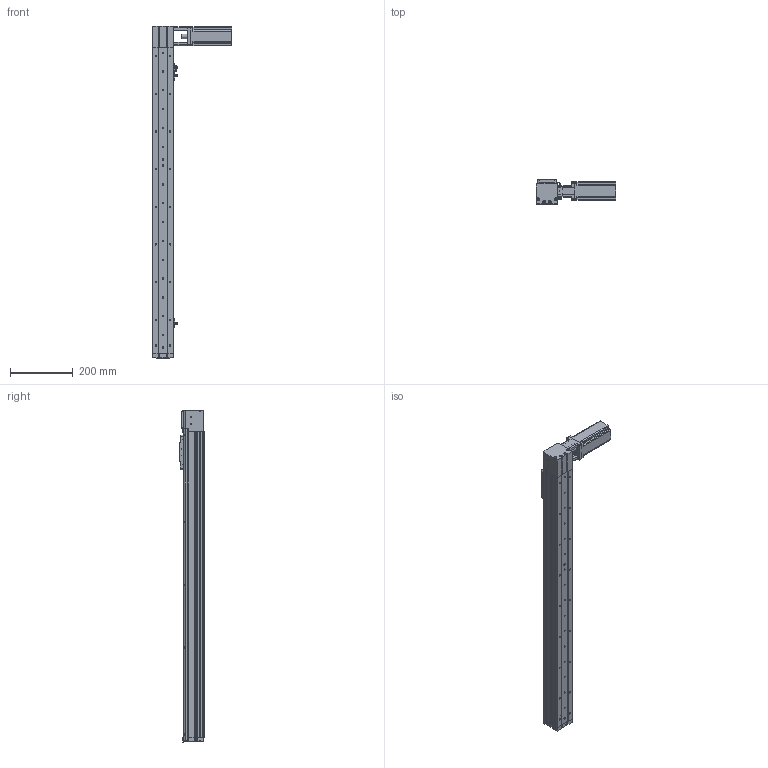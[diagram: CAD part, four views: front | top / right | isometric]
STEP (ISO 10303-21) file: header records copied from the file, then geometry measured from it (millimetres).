
FILE_DESCRIPTION (( 'STEP AP214' ), '1' );
FILE_NAME ('KSD68BS-S800-MRT-CR.STEP', '2019-08-27T07:09:35', ( '微软用户' ), ( '微软中国' ), 'SwSTEP 2.0', 'SolidWorks 2014', '' );
FILE_SCHEMA (( 'AUTOMOTIVE_DESIGN' ));
Length unit declared in the file: millimetre
Products named in the file (13): 台达ECMA－C20604AS伺服电机（400W); 68遵裔啣揤啣1; 68宽单导轨全封闭丝杆传动安装板1防护罩; KSD68BS 800行程侧板全封闭; KSD68BS 800行程底板全封闭; KSD68BS-S800-MRT-CR; KSD68BS 800行程盖板全封闭; 100遵鎮湛假蚾啣1; 68宽单导轨全封闭同步带端板; 68单导轨全封闭同步带电机座左; 68单导轨全封闭同步带安装板; 感应片68宽全封闭; U倰嫖萇EEㄜSX672
Assembly tree (16 placements, depth 2):
  KSD68BS-S800-MRT-CR
    KSD68BS 800行程底板全封闭
    台达ECMA－C20604AS伺服电机（400W)
    U倰嫖萇EEㄜSX672  x3
    感应片68宽全封闭
    68单导轨全封闭同步带安装板
    68单导轨全封闭同步带电机座左
    68宽单导轨全封闭同步带端板
    KSD68BS 800行程侧板全封闭  x2
    68宽单导轨全封闭丝杆传动安装板1防护罩
    68遵裔啣揤啣1  x2
    KSD68BS 800行程盖板全封闭
    100遵鎮湛假蚾啣1
Bounding box: 252.7 x 77 x 1058.1 mm (x, y, z)
Volume: 2215533.6 mm3; surface area: 806648.8 mm2
Topology: 17 solids, 17 shells, 1413 faces, 4018 edges, 2570 vertices
Faces by surface type: cylinder 659, plane 598, cone 156
Entity records: 44758 total; most frequent: CARTESIAN_POINT 7649, DIRECTION 6651, ORIENTED_EDGE 6372, EDGE_CURVE 3186, AXIS2_PLACEMENT_3D 2396, VERTEX_POINT 2088, LINE 1859, VECTOR 1859
